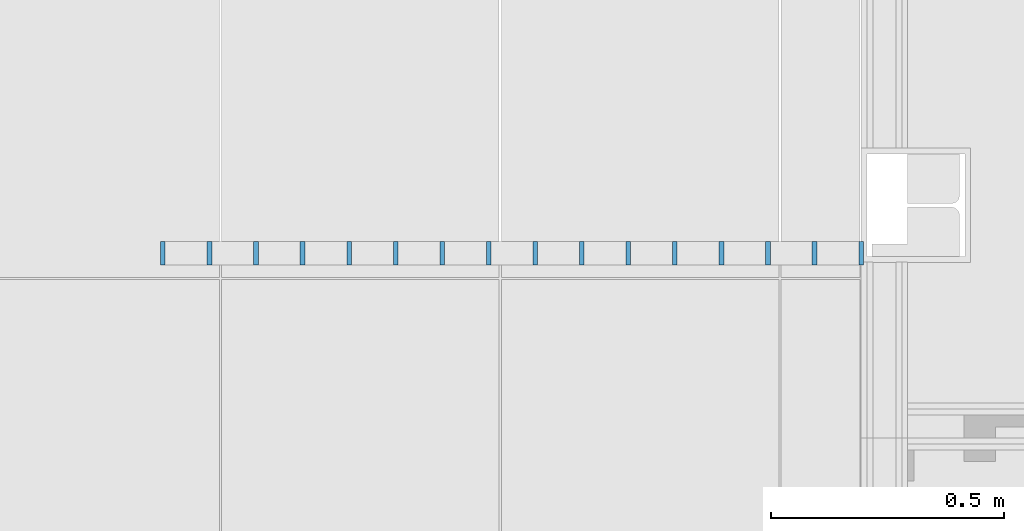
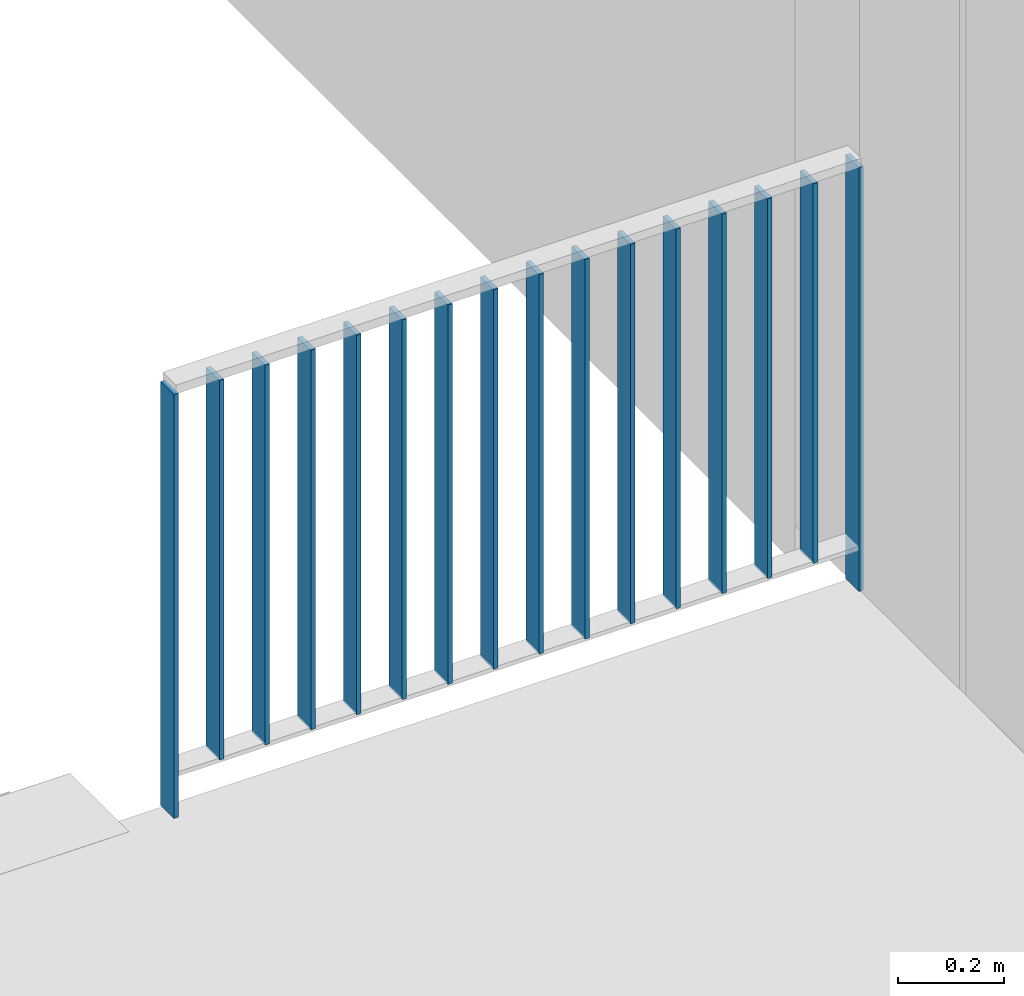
# One storey, part 15 of 321: 16 members, 1 element without a shape of its own.
"""IFC2X3 building model written with IfcOpenShell, lengths in millimetres."""

import ifcopenshell
import ifcopenshell.guid

model = None  # the IFC model being written
_history = None  # IfcOwnerHistory: only IFC2X3 demands one
_inside = {}  # id of a spatial element -> (the spatial element, [elements in it])
_under = {}  # id of a project, library or spatial element -> (it, [spatial elements below it])
_declared = {}  # id of a project -> (the project, [libraries it declares])
_typed = {}  # id of a type object -> (the type object, [elements of that type])
_made_of = {}  # id of a material, layer set ... -> (it, [elements and type objects made of it])


def new_model(schema):
    """Start an empty IFC model of exactly this schema.

    Asked for "IFC4X3", IfcOpenShell would pick the latest addendum, in which some entities
    have other attributes; the version numbers below select the first issue.
    IFC2X3 requires an IfcOwnerHistory on every rooted entity: one is made here for all.
    """
    global model, _history
    if schema == "IFC4X3":
        model = ifcopenshell.file(schema_version=(4, 3, 0, 0))
    else:
        model = ifcopenshell.file(schema=schema)
    _inside.clear()
    _under.clear()
    _declared.clear()
    _typed.clear()
    _made_of.clear()
    _history = None
    if model.schema == "IFC2X3":
        org = make("IfcOrganization", Name="unknown")
        user = make(
            "IfcPersonAndOrganization",
            ThePerson=make("IfcPerson", FamilyName="unknown"),
            TheOrganization=org,
        )
        app = make(
            "IfcApplication",
            ApplicationDeveloper=org,
            Version="unknown",
            ApplicationFullName="unknown",
            ApplicationIdentifier="unknown",
        )
        _history = make(
            "IfcOwnerHistory",
            OwningUser=user,
            OwningApplication=app,
            ChangeAction="ADDED",
            CreationDate=0,
        )
    return model


def make(cls, **values):
    """One entity of the class cls with the attributes given. An attribute that is None is left unset."""
    return model.create_entity(
        cls, **{name: value for name, value in values.items() if value is not None}
    )


def entity(cls, *values):
    """Any entity or typed value of the class cls, its attributes in the order of the schema. None: left unset."""
    e = model.create_entity(cls)
    for i, value in enumerate(values):
        if value is not None:
            e[i] = value
    return e


def rooted(cls, **values):
    """An entity with a GlobalId (a new one), such as an element, a storey or a relation."""
    return make(cls, GlobalId=ifcopenshell.guid.new(), OwnerHistory=_history, **values)


def si_unit(unit_type, name, prefix=None):
    """IfcSIUnit, for example si_unit("LENGTHUNIT", "METRE", prefix="MILLI")."""
    return make("IfcSIUnit", UnitType=unit_type, Prefix=prefix, Name=name)


def converted_unit(unit_type, name, factor, base, dimensions=None, offset=None):
    """IfcConversionBasedUnit, such as the inch: factor (a typed value) times the base unit."""
    return make(
        "IfcConversionBasedUnit"
        if offset is None
        else "IfcConversionBasedUnitWithOffset",
        ConversionOffset=offset,
        Dimensions=None
        if dimensions is None
        else entity("IfcDimensionalExponents", *dimensions),
        UnitType=unit_type,
        Name=name,
        ConversionFactor=make(
            "IfcMeasureWithUnit", ValueComponent=factor, UnitComponent=base
        ),
    )


def derived_unit(unit_type, elements):
    """IfcDerivedUnit: a product of units, each with its exponent."""
    return make(
        "IfcDerivedUnit",
        Elements=[
            make("IfcDerivedUnitElement", Unit=unit, Exponent=power)
            for unit, power in elements
        ],
        UnitType=unit_type,
    )


def money_unit(currency):
    """IfcMonetaryUnit."""
    return make("IfcMonetaryUnit", Currency=currency)


def assignment(units):
    """IfcUnitAssignment: the units of a project."""
    return None if units is None else make("IfcUnitAssignment", Units=units)


def point(xyz):
    """IfcCartesianPoint."""
    return None if xyz is None else make("IfcCartesianPoint", Coordinates=xyz)


def direction(xyz):
    """IfcDirection."""
    return None if xyz is None else make("IfcDirection", DirectionRatios=xyz)


def frame(location, z_axis=None, x_axis=None):
    """IfcAxis2Placement3D, a coordinate frame: its origin and axes. An axis left out is left unset."""
    return make(
        "IfcAxis2Placement3D",
        Location=point(location),
        Axis=direction(z_axis),
        RefDirection=direction(x_axis),
    )


def origin_with_axes():
    """The frame at (0, 0, 0) with the z axis (0, 0, 1) and the x axis (1, 0, 0) written out."""
    return frame((0.0, 0.0, 0.0), z_axis=(0.0, 0.0, 1.0), x_axis=(1.0, 0.0, 0.0))


def place(relative_to, where):
    """IfcLocalPlacement: puts the frame where relative to a parent placement (None: the world)."""
    return make(
        "IfcLocalPlacement", PlacementRelTo=relative_to, RelativePlacement=where
    )


def context(
    kind, dimensions, precision=None, world=None, true_north=None, identifier=None
):
    """IfcGeometricRepresentationContext, for example the 3D "Model" context."""
    return make(
        "IfcGeometricRepresentationContext",
        ContextIdentifier=identifier,
        ContextType=kind,
        CoordinateSpaceDimension=dimensions,
        Precision=precision,
        WorldCoordinateSystem=world,
        TrueNorth=true_north,
    )


def subcontext(parent, identifier, kind, view, scale=None):
    """IfcGeometricRepresentationSubContext, for example "Body" below "Model"."""
    return make(
        "IfcGeometricRepresentationSubContext",
        ContextIdentifier=identifier,
        ContextType=kind,
        ParentContext=parent,
        TargetScale=scale,
        TargetView=view,
    )


def project(units=None, contexts=None):
    """IfcProject with its units and contexts."""
    return rooted(
        "IfcProject",
        Name="project",
        RepresentationContexts=contexts,
        UnitsInContext=assignment(units),
    )


def spatial(cls, under=None, at=None, **own):
    """A site, building, storey or space (cls), placed at a placement, below another one or the project."""
    s = rooted(cls, ObjectPlacement=at, **own)
    if under is not None:
        _under.setdefault(under.id(), (under, []))[1].append(s)
    return s


def faces_of(points, faces, orient=None, outer=None):
    """IfcFace entities. A face is a list of loops; a loop is a list of indices into points, from 0.

    orient and outer hold one flag for each loop. By default every Orientation is true, the
    first loop of a face is its IfcFaceOuterBound and the others are IfcFaceBound.
    """
    made = []
    for i, loops in enumerate(faces):
        bounds = []
        for j, loop in enumerate(loops):
            is_outer = j == 0 if outer is None else outer[i][j]
            bounds.append(
                make(
                    "IfcFaceOuterBound" if is_outer else "IfcFaceBound",
                    Bound=make("IfcPolyLoop", Polygon=[points[k] for k in loop]),
                    Orientation=True if orient is None else orient[i][j],
                )
            )
        made.append(make("IfcFace", Bounds=bounds))
    return made


def faceted_brep(points, faces, orient=None, outer=None, voids=None):
    """IfcFacetedBrep: a solid bounded by flat faces; with voids (closed shells), ...WithVoids."""
    shared = [point(p) for p in points]
    hull = make("IfcClosedShell", CfsFaces=faces_of(shared, faces, orient, outer))
    if voids is None:
        return make("IfcFacetedBrep", Outer=hull)
    return make(
        "IfcFacetedBrepWithVoids",
        Outer=hull,
        Voids=[
            make(cls, CfsFaces=faces_of(shared, fs, o, b)) for cls, fs, o, b in voids
        ],
    )


def shape(context_of_items, identifier, shape_type, items):
    """IfcShapeRepresentation: the items that make up one representation, for example the "Body"."""
    return make(
        "IfcShapeRepresentation",
        ContextOfItems=context_of_items,
        RepresentationIdentifier=identifier,
        RepresentationType=shape_type,
        Items=items,
    )


def source(mapping_origin, context_of_items, identifier, shape_type, items):
    """IfcRepresentationMap: a shape defined once, which mapped items show again and again."""
    return make(
        "IfcRepresentationMap",
        MappingOrigin=mapping_origin,
        MappedRepresentation=shape(context_of_items, identifier, shape_type, items),
    )


def transform(
    local_origin,
    x_axis=None,
    y_axis=None,
    z_axis=None,
    scale=None,
    scale2=None,
    scale3=None,
    uniform=True,
):
    """IfcCartesianTransformationOperator3D, or its non-uniform kind. x_axis, y_axis, z_axis: its Axis1, 2, 3."""
    if uniform:
        return make(
            "IfcCartesianTransformationOperator3D",
            Axis1=direction(x_axis),
            Axis2=direction(y_axis),
            LocalOrigin=point(local_origin),
            Scale=scale,
            Axis3=direction(z_axis),
        )
    return make(
        "IfcCartesianTransformationOperator3DnonUniform",
        Axis1=direction(x_axis),
        Axis2=direction(y_axis),
        LocalOrigin=point(local_origin),
        Scale=scale,
        Axis3=direction(z_axis),
        Scale2=scale2,
        Scale3=scale3,
    )


def mapped(mapping_source, mapping_target):
    """IfcMappedItem: shows the shape of a source again, moved by a transform."""
    return make(
        "IfcMappedItem", MappingSource=mapping_source, MappingTarget=mapping_target
    )


def material(Name=None, Category=None):
    """IfcMaterial."""
    return make("IfcMaterial", Name=Name, Category=Category)


def made_of(thing, what):
    """Note that an element or type object is made of a material, layer set ...; save() writes the relation."""
    if what is not None:
        _made_of.setdefault(what.id(), (what, []))[1].append(thing)
    return thing


def type_object(cls, material=None, **own):
    """A type object (cls), such as IfcWallType, which elements share."""
    return made_of(rooted(cls, **own), material)


def type_shapes(of_type, sources):
    """Give a type object the sources (RepresentationMaps) that its elements show as mapped items."""
    of_type.RepresentationMaps = sources


def element(
    cls,
    number,
    at=None,
    inside=None,
    cuts=None,
    type_object=None,
    material=None,
    context=None,
    identifier="Body",
    shape_type=None,
    held_by="IfcProductDefinitionShape",
    body=None,
    shapes=None,
    **own,
):
    """One element of the class cls, such as IfcWall. Its Tag is "e" and its number.

    at: its placement. inside: the storey or other place that contains it. cuts: it is an
    opening in that element (IfcRelVoidsElement). A single representation is given by context,
    identifier, shape_type and body (its items); several are given by shapes. held_by: the class
    of the entity that holds the representations. save() writes the other relations.
    """
    e = rooted(cls, Tag="e%d" % number, ObjectPlacement=at, **own)
    if body is not None:
        shapes = [shape(context, identifier, shape_type, body)]
    if shapes is not None:
        e.Representation = make(held_by, Representations=shapes)
    if inside is not None:
        _inside.setdefault(inside.id(), (inside, []))[1].append(e)
    if cuts is not None:
        rooted(
            "IfcRelVoidsElement", RelatingBuildingElement=cuts, RelatedOpeningElement=e
        )
    if type_object is not None:
        _typed.setdefault(type_object.id(), (type_object, []))[1].append(e)
    return made_of(e, material)


def aggregate(whole, parts):
    """IfcRelAggregates: a whole, such as a stair, and the parts it consists of."""
    return rooted("IfcRelAggregates", RelatingObject=whole, RelatedObjects=parts)


def save(model, path):
    """Write the relations noted so far, then the file.

    IfcRelAggregates (storeys below a building ...), IfcRelContainedInSpatialStructure (elements
    in a storey), IfcRelDefinesByType, IfcRelAssociatesMaterial and IfcRelDeclares: one each for
    every whole, place, type object, material and project.
    """
    for whole, parts in _under.values():
        aggregate(whole, parts)
    for where, things in _inside.values():
        rooted(
            "IfcRelContainedInSpatialStructure",
            RelatedElements=things,
            RelatingStructure=where,
        )
    for kind, things in _typed.values():
        rooted("IfcRelDefinesByType", RelatedObjects=things, RelatingType=kind)
    for what, things in _made_of.values():
        rooted("IfcRelAssociatesMaterial", RelatedObjects=things, RelatingMaterial=what)
    for by, libraries in _declared.values():
        rooted("IfcRelDeclares", RelatingContext=by, RelatedDefinitions=libraries)
    model.write(path)


model = new_model("IFC2X3")

# Units and contexts
model_context = context("Model", 3, precision=0.01, world=origin_with_axes(), true_north=direction((0.0, 1.0)))
plan_context = context("Plan", 3, precision=0.01, world=origin_with_axes(), true_north=direction((0.0, 1.0)))
body_context = subcontext(model_context, "Body", "Model", "MODEL_VIEW")
ifc_project = project(units=[si_unit("LENGTHUNIT", "METRE", prefix="MILLI"), si_unit("AREAUNIT", "SQUARE_METRE"), si_unit("VOLUMEUNIT", "CUBIC_METRE"), converted_unit("PLANEANGLEUNIT", "DEGREE", entity("IfcPlaneAngleMeasure", 0.0174532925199), si_unit("PLANEANGLEUNIT", "RADIAN"), dimensions=[0, 0, 0, 0, 0, 0, 0]), money_unit("EUR"), converted_unit("TIMEUNIT", "Year", entity("IfcTimeMeasure", 31556926.0), si_unit("TIMEUNIT", "SECOND"), dimensions=[0, 0, 1, 0, 0, 0, 0]), si_unit("MASSUNIT", "GRAM", prefix="KILO"), si_unit("THERMODYNAMICTEMPERATUREUNIT", "DEGREE_CELSIUS"), si_unit("LUMINOUSINTENSITYUNIT", "LUMEN"), si_unit("ENERGYUNIT", "JOULE", prefix="MEGA"), derived_unit("THERMALCONDUCTANCEUNIT", [(si_unit("POWERUNIT", "WATT"), 1), (si_unit("LENGTHUNIT", "METRE"), -1), (si_unit("THERMODYNAMICTEMPERATUREUNIT", "KELVIN"), -1)]), derived_unit("SPECIFICHEATCAPACITYUNIT", [(si_unit("ENERGYUNIT", "JOULE"), 1), (si_unit("MASSUNIT", "GRAM", prefix="KILO"), -1), (si_unit("THERMODYNAMICTEMPERATUREUNIT", "KELVIN"), -1)]), derived_unit("MASSDENSITYUNIT", [(si_unit("MASSUNIT", "GRAM", prefix="KILO"), 1), (si_unit("VOLUMEUNIT", "CUBIC_METRE"), -1)])], contexts=[model_context, plan_context])

# Site, building, storey
site_placement = place(None, origin_with_axes())
site = spatial("IfcSite", under=ifc_project, at=site_placement, Name="Fortuinstraat Woensdrecht", CompositionType="ELEMENT")
building_placement = place(site_placement, origin_with_axes())
building = spatial("IfcBuilding", under=site, at=building_placement, Name="IKC Fortuna", CompositionType="ELEMENT")
storey_placement = place(building_placement, frame((0.0, 0.0, 4000.0), z_axis=(0.0, 0.0, 1.0), x_axis=(1.0, 0.0, 0.0)))
storey = spatial("IfcBuildingStorey", under=building, at=storey_placement, Name="01 eerste verdieping", CompositionType="ELEMENT", Elevation=4000.0)

# Railing, members
railing_type = type_object("IfcRailingType", Name="Railing Type", PredefinedType="NOTDEFINED")
railing_placement = place(storey_placement, frame((27279.3327381, 19839.7644288, 0.0), z_axis=(0.0, 0.0, 1.0), x_axis=(1.0, 0.0, 0.0)))
railing = element("IfcRailing", 1, at=railing_placement, inside=storey, type_object=railing_type, Name="34_Reling_Trapleuning", PredefinedType="NOTDEFINED")
ifc_material = material(Name="Metaal - RVS")
member_type_1 = type_object("IfcMemberType", Name="IfcMember", PredefinedType="POST")
shared_shape_1 = source(origin_with_axes(), body_context, "Body", "Brep", [
    faceted_brep([(25.0, 5.0, 0.0), (-25.0, 5.0, 0.0), (-25.0, 5.0, 980.0), (25.0, 5.0, 980.0), (25.0, -5.0, 0.0), (-25.0, -5.0, 0.0), (-25.0, -5.0, 980.0), (25.0, -5.0, 980.0)], [[[0, 1, 2, 3]], [[0, 4, 5, 1]], [[1, 5, 6, 2]], [[3, 2, 6, 7]], [[4, 0, 3, 7]], [[5, 4, 7, 6]]]),
])
type_shapes(member_type_1, [shared_shape_1])
member_1_placement = place(railing_placement, frame((75.0000053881, -20.0, 0.0), z_axis=(0.0, 0.0, 1.0), x_axis=(1.0, 0.0, 0.0)))
member_1 = element("IfcMember", 2, at=member_1_placement, type_object=member_type_1, material=ifc_material, Name="_Reling - baluster_", ObjectType="POST", context=body_context, shape_type="MappedRepresentation", body=[
    mapped(shared_shape_1, transform((0.0, 0.0, 0.0), x_axis=(0.0, -1.0, 0.0), y_axis=(1.0, 0.0, 0.0), z_axis=(0.0, 0.0, 1.0))),
])
member_2_placement = place(railing_placement, frame((1572.60223843, -20.0, 0.0), z_axis=(0.0, 0.0, 1.0), x_axis=(1.0, 0.0, 0.0)))
member_2 = element("IfcMember", 3, at=member_2_placement, type_object=member_type_1, material=ifc_material, Name="_Reling - baluster_", ObjectType="POST", context=body_context, shape_type="MappedRepresentation", body=[
    mapped(shared_shape_1, transform((0.0, 0.0, 0.0), x_axis=(0.0, -1.0, 0.0), y_axis=(1.0, 0.0, 0.0), z_axis=(0.0, 0.0, 1.0))),
])
member_type_2 = type_object("IfcMemberType", Name="IfcMember", PredefinedType="MEMBER")
shared_shape_2 = source(origin_with_axes(), body_context, "Body", "Brep", [
    faceted_brep([(25.0, 5.0, 0.0), (-25.0, 5.0, 0.0), (-25.0, 5.0, 877.5), (25.0, 5.0, 877.5), (25.0, -5.0, 0.0), (-25.0, -5.0, 0.0), (-25.0, -5.0, 877.5), (25.0, -5.0, 877.5)], [[[0, 1, 2, 3]], [[0, 4, 5, 1]], [[1, 5, 6, 2]], [[3, 2, 6, 7]], [[4, 0, 3, 7]], [[5, 4, 7, 6]]]),
])
type_shapes(member_type_2, [shared_shape_2])
member_3_placement = place(railing_placement, frame((174.840154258, -20.0, 100.0), z_axis=(0.0, 0.0, 1.0), x_axis=(1.0, 0.0, 0.0)))
member_3 = element("IfcMember", 4, at=member_3_placement, type_object=member_type_2, material=ifc_material, Name="_Onderdeel_Spijlen-x", ObjectType="MEMBER", context=body_context, shape_type="MappedRepresentation", body=[
    mapped(shared_shape_2, transform((0.0, 0.0, 0.0), x_axis=(0.0, -1.0, 0.0), y_axis=(1.0, 0.0, 0.0), z_axis=(0.0, 0.0, 1.0))),
])
member_4_placement = place(railing_placement, frame((274.680303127, -20.0, 100.0), z_axis=(0.0, 0.0, 1.0), x_axis=(1.0, 0.0, 0.0)))
member_4 = element("IfcMember", 5, at=member_4_placement, type_object=member_type_2, material=ifc_material, Name="_Onderdeel_Spijlen-x", ObjectType="MEMBER", context=body_context, shape_type="MappedRepresentation", body=[
    mapped(shared_shape_2, transform((0.0, 0.0, 0.0), x_axis=(0.0, -1.0, 0.0), y_axis=(1.0, 0.0, 0.0), z_axis=(0.0, 0.0, 1.0))),
])
member_5_placement = place(railing_placement, frame((374.520451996, -20.0, 100.0), z_axis=(0.0, 0.0, 1.0), x_axis=(1.0, 0.0, 0.0)))
member_5 = element("IfcMember", 6, at=member_5_placement, type_object=member_type_2, material=ifc_material, Name="_Onderdeel_Spijlen-x", ObjectType="MEMBER", context=body_context, shape_type="MappedRepresentation", body=[
    mapped(shared_shape_2, transform((0.0, 0.0, 0.0), x_axis=(0.0, -1.0, 0.0), y_axis=(1.0, 0.0, 0.0), z_axis=(0.0, 0.0, 1.0))),
])
member_6_placement = place(railing_placement, frame((474.360600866, -20.0, 100.0), z_axis=(0.0, 0.0, 1.0), x_axis=(1.0, 0.0, 0.0)))
member_6 = element("IfcMember", 7, at=member_6_placement, type_object=member_type_2, material=ifc_material, Name="_Onderdeel_Spijlen-x", ObjectType="MEMBER", context=body_context, shape_type="MappedRepresentation", body=[
    mapped(shared_shape_2, transform((0.0, 0.0, 0.0), x_axis=(0.0, -1.0, 0.0), y_axis=(1.0, 0.0, 0.0), z_axis=(0.0, 0.0, 1.0))),
])
member_7_placement = place(railing_placement, frame((574.200749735, -20.0, 100.0), z_axis=(0.0, 0.0, 1.0), x_axis=(1.0, 0.0, 0.0)))
member_7 = element("IfcMember", 8, at=member_7_placement, type_object=member_type_2, material=ifc_material, Name="_Onderdeel_Spijlen-x", ObjectType="MEMBER", context=body_context, shape_type="MappedRepresentation", body=[
    mapped(shared_shape_2, transform((0.0, 0.0, 0.0), x_axis=(0.0, -1.0, 0.0), y_axis=(1.0, 0.0, 0.0), z_axis=(0.0, 0.0, 1.0))),
])
member_8_placement = place(railing_placement, frame((674.040898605, -20.0, 100.0), z_axis=(0.0, 0.0, 1.0), x_axis=(1.0, 0.0, 0.0)))
member_8 = element("IfcMember", 9, at=member_8_placement, type_object=member_type_2, material=ifc_material, Name="_Onderdeel_Spijlen-x", ObjectType="MEMBER", context=body_context, shape_type="MappedRepresentation", body=[
    mapped(shared_shape_2, transform((0.0, 0.0, 0.0), x_axis=(0.0, -1.0, 0.0), y_axis=(1.0, 0.0, 0.0), z_axis=(0.0, 0.0, 1.0))),
])
member_9_placement = place(railing_placement, frame((773.881047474, -20.0, 100.0), z_axis=(0.0, 0.0, 1.0), x_axis=(1.0, 0.0, 0.0)))
member_9 = element("IfcMember", 10, at=member_9_placement, type_object=member_type_2, material=ifc_material, Name="_Onderdeel_Spijlen-x", ObjectType="MEMBER", context=body_context, shape_type="MappedRepresentation", body=[
    mapped(shared_shape_2, transform((0.0, 0.0, 0.0), x_axis=(0.0, -1.0, 0.0), y_axis=(1.0, 0.0, 0.0), z_axis=(0.0, 0.0, 1.0))),
])
member_10_placement = place(railing_placement, frame((873.721196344, -20.0, 100.0), z_axis=(0.0, 0.0, 1.0), x_axis=(1.0, 0.0, 0.0)))
member_10 = element("IfcMember", 11, at=member_10_placement, type_object=member_type_2, material=ifc_material, Name="_Onderdeel_Spijlen-x", ObjectType="MEMBER", context=body_context, shape_type="MappedRepresentation", body=[
    mapped(shared_shape_2, transform((0.0, 0.0, 0.0), x_axis=(0.0, -1.0, 0.0), y_axis=(1.0, 0.0, 0.0), z_axis=(0.0, 0.0, 1.0))),
])
member_11_placement = place(railing_placement, frame((973.561345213, -20.0, 100.0), z_axis=(0.0, 0.0, 1.0), x_axis=(1.0, 0.0, 0.0)))
member_11 = element("IfcMember", 12, at=member_11_placement, type_object=member_type_2, material=ifc_material, Name="_Onderdeel_Spijlen-x", ObjectType="MEMBER", context=body_context, shape_type="MappedRepresentation", body=[
    mapped(shared_shape_2, transform((0.0, 0.0, 0.0), x_axis=(0.0, -1.0, 0.0), y_axis=(1.0, 0.0, 0.0), z_axis=(0.0, 0.0, 1.0))),
])
member_12_placement = place(railing_placement, frame((1073.40149408, -20.0, 100.0), z_axis=(0.0, 0.0, 1.0), x_axis=(1.0, 0.0, 0.0)))
member_12 = element("IfcMember", 13, at=member_12_placement, type_object=member_type_2, material=ifc_material, Name="_Onderdeel_Spijlen-x", ObjectType="MEMBER", context=body_context, shape_type="MappedRepresentation", body=[
    mapped(shared_shape_2, transform((0.0, 0.0, 0.0), x_axis=(0.0, -1.0, 0.0), y_axis=(1.0, 0.0, 0.0), z_axis=(0.0, 0.0, 1.0))),
])
member_13_placement = place(railing_placement, frame((1173.24164295, -20.0, 100.0), z_axis=(0.0, 0.0, 1.0), x_axis=(1.0, 0.0, 0.0)))
member_13 = element("IfcMember", 14, at=member_13_placement, type_object=member_type_2, material=ifc_material, Name="_Onderdeel_Spijlen-x", ObjectType="MEMBER", context=body_context, shape_type="MappedRepresentation", body=[
    mapped(shared_shape_2, transform((0.0, 0.0, 0.0), x_axis=(0.0, -1.0, 0.0), y_axis=(1.0, 0.0, 0.0), z_axis=(0.0, 0.0, 1.0))),
])
member_14_placement = place(railing_placement, frame((1273.08179182, -20.0, 100.0), z_axis=(0.0, 0.0, 1.0), x_axis=(1.0, 0.0, 0.0)))
member_14 = element("IfcMember", 15, at=member_14_placement, type_object=member_type_2, material=ifc_material, Name="_Onderdeel_Spijlen-x", ObjectType="MEMBER", context=body_context, shape_type="MappedRepresentation", body=[
    mapped(shared_shape_2, transform((0.0, 0.0, 0.0), x_axis=(0.0, -1.0, 0.0), y_axis=(1.0, 0.0, 0.0), z_axis=(0.0, 0.0, 1.0))),
])
member_15_placement = place(railing_placement, frame((1372.92194069, -20.0, 100.0), z_axis=(0.0, 0.0, 1.0), x_axis=(1.0, 0.0, 0.0)))
member_15 = element("IfcMember", 16, at=member_15_placement, type_object=member_type_2, material=ifc_material, Name="_Onderdeel_Spijlen-x", ObjectType="MEMBER", context=body_context, shape_type="MappedRepresentation", body=[
    mapped(shared_shape_2, transform((0.0, 0.0, 0.0), x_axis=(0.0, -1.0, 0.0), y_axis=(1.0, 0.0, 0.0), z_axis=(0.0, 0.0, 1.0))),
])
member_16_placement = place(railing_placement, frame((1472.76208956, -20.0, 100.0), z_axis=(0.0, 0.0, 1.0), x_axis=(1.0, 0.0, 0.0)))
member_16 = element("IfcMember", 17, at=member_16_placement, type_object=member_type_2, material=ifc_material, Name="_Onderdeel_Spijlen-x", ObjectType="MEMBER", context=body_context, shape_type="MappedRepresentation", body=[
    mapped(shared_shape_2, transform((0.0, 0.0, 0.0), x_axis=(0.0, -1.0, 0.0), y_axis=(1.0, 0.0, 0.0), z_axis=(0.0, 0.0, 1.0))),
])
aggregate(railing, [member_1, member_2, member_3, member_4, member_5, member_6, member_7, member_8, member_9, member_10, member_11, member_12, member_13, member_14, member_15, member_16])

save(model, "model.ifc")
